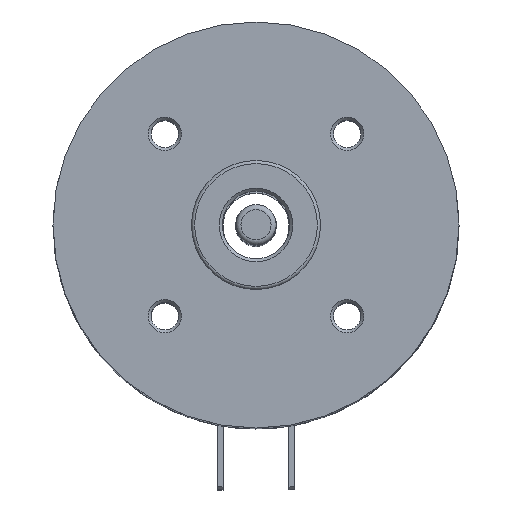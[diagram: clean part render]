
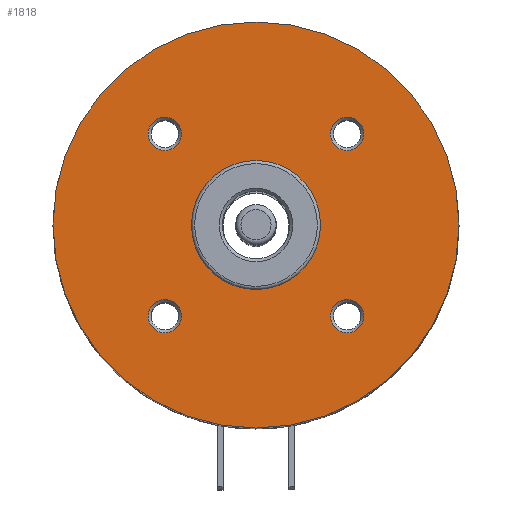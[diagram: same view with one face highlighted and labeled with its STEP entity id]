
A CAD part, top view. The second image highlights one B-rep face of the part: STEP entity #1818.
In plain terms, the highlighted planar face has unit normal (0, 0, 1).
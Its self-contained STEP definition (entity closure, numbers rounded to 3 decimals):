
#1743=CARTESIAN_POINT('',(-8.98,-7.33,2.6));
#1744=VERTEX_POINT('',#1743);
#1745=CARTESIAN_POINT('',(-8.98,-8.98,2.6));
#1746=DIRECTION('',(0.0,0.0,1.0));
#1747=DIRECTION('',(0.0,-1.0,0.0));
#1748=AXIS2_PLACEMENT_3D('',#1745,#1746,#1747);
#1749=CIRCLE('',#1748,1.65);
#1750=EDGE_CURVE('',#1744,#1744,#1749,.T.);
#1755=CARTESIAN_POINT('',(0.0,0.0,2.6));
#1756=DIRECTION('',(0.0,0.0,-1.0));
#1757=DIRECTION('',(-1.0,0.0,0.0));
#1758=AXIS2_PLACEMENT_3D('',#1755,#1756,#1757);
#1759=PLANE('',#1758);
#1760=CARTESIAN_POINT('',(20.0,0.,2.6));
#1761=VERTEX_POINT('',#1760);
#1762=CARTESIAN_POINT('',(0.0,0.0,2.6));
#1763=DIRECTION('',(0.0,0.0,-1.0));
#1764=DIRECTION('',(-1.0,0.0,0.0));
#1765=AXIS2_PLACEMENT_3D('',#1762,#1763,#1764);
#1766=CIRCLE('',#1765,20.0);
#1767=EDGE_CURVE('',#1761,#1761,#1766,.T.);
#1768=ORIENTED_EDGE('',*,*,#1767,.F.);
#1769=EDGE_LOOP('',(#1768));
#1770=FACE_OUTER_BOUND('',#1769,.T.);
#1771=CARTESIAN_POINT('',(7.33,-8.98,2.6));
#1772=VERTEX_POINT('',#1771);
#1773=CARTESIAN_POINT('',(8.98,-8.98,2.6));
#1774=DIRECTION('',(0.0,0.0,1.0));
#1775=DIRECTION('',(1.0,0.0,0.0));
#1776=AXIS2_PLACEMENT_3D('',#1773,#1774,#1775);
#1777=CIRCLE('',#1776,1.65);
#1778=EDGE_CURVE('',#1772,#1772,#1777,.T.);
#1779=ORIENTED_EDGE('',*,*,#1778,.F.);
#1780=EDGE_LOOP('',(#1779));
#1781=FACE_BOUND('',#1780,.T.);
#1782=CARTESIAN_POINT('',(-7.33,8.98,2.6));
#1783=VERTEX_POINT('',#1782);
#1784=CARTESIAN_POINT('',(-8.98,8.98,2.6));
#1785=DIRECTION('',(0.0,0.0,1.0));
#1786=DIRECTION('',(-1.0,0.0,0.0));
#1787=AXIS2_PLACEMENT_3D('',#1784,#1785,#1786);
#1788=CIRCLE('',#1787,1.65);
#1789=EDGE_CURVE('',#1783,#1783,#1788,.T.);
#1790=ORIENTED_EDGE('',*,*,#1789,.F.);
#1791=EDGE_LOOP('',(#1790));
#1792=FACE_BOUND('',#1791,.T.);
#1793=CARTESIAN_POINT('',(6.35,0.,2.6));
#1794=VERTEX_POINT('',#1793);
#1795=CARTESIAN_POINT('',(0.0,0.0,2.6));
#1796=DIRECTION('',(0.0,0.0,-1.0));
#1797=DIRECTION('',(-1.0,0.0,0.0));
#1798=AXIS2_PLACEMENT_3D('',#1795,#1796,#1797);
#1799=CIRCLE('',#1798,6.35);
#1800=EDGE_CURVE('',#1794,#1794,#1799,.T.);
#1801=ORIENTED_EDGE('',*,*,#1800,.T.);
#1802=EDGE_LOOP('',(#1801));
#1803=FACE_BOUND('',#1802,.T.);
#1804=CARTESIAN_POINT('',(8.98,7.33,2.6));
#1805=VERTEX_POINT('',#1804);
#1806=CARTESIAN_POINT('',(8.98,8.98,2.6));
#1807=DIRECTION('',(0.0,0.0,1.0));
#1808=DIRECTION('',(0.0,1.0,0.0));
#1809=AXIS2_PLACEMENT_3D('',#1806,#1807,#1808);
#1810=CIRCLE('',#1809,1.65);
#1811=EDGE_CURVE('',#1805,#1805,#1810,.T.);
#1812=ORIENTED_EDGE('',*,*,#1811,.F.);
#1813=EDGE_LOOP('',(#1812));
#1814=FACE_BOUND('',#1813,.T.);
#1815=ORIENTED_EDGE('',*,*,#1750,.F.);
#1816=EDGE_LOOP('',(#1815));
#1817=FACE_BOUND('',#1816,.T.);
#1818=ADVANCED_FACE('',(#1770,#1781,#1792,#1803,#1814,#1817),#1759,.F.);
